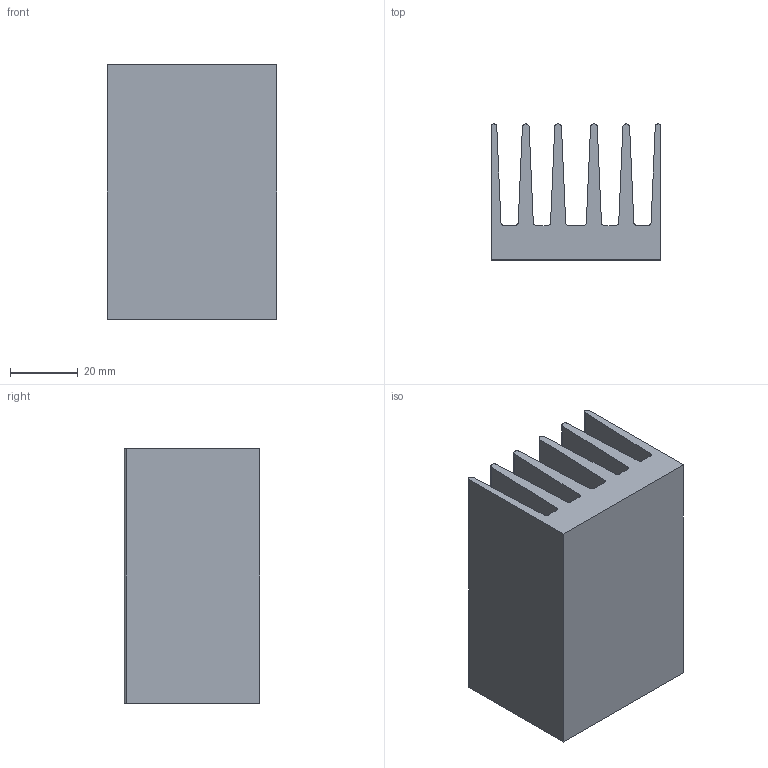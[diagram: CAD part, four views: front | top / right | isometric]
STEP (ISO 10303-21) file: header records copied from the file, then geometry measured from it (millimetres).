
FILE_DESCRIPTION (( 'STEP AP203' ), '1' );
FILE_NAME ('PR 289-75.step', '2002-10-21T08:46:39', ( 'Wolfgang Müller' ), ( 'DPS' ), 'SwSTEP 2.0', 'SolidWorks 2002264', '' );
FILE_SCHEMA (( 'CONFIG_CONTROL_DESIGN' ));
Length unit declared in the file: millimetre
Products named in the file (1): PR 289-75
Bounding box: 50 x 40 x 75 mm (x, y, z)
Volume: 76751.4 mm3; surface area: 36461.3 mm2
Topology: 1 solids, 1 shells, 36 faces, 102 edges, 68 vertices
Faces by surface type: plane 20, cylinder 16
Entity records: 1255 total; most frequent: DIRECTION 208, CARTESIAN_POINT 207, ORIENTED_EDGE 204, EDGE_CURVE 102, LINE 70, VECTOR 70, AXIS2_PLACEMENT_3D 69, VERTEX_POINT 68
